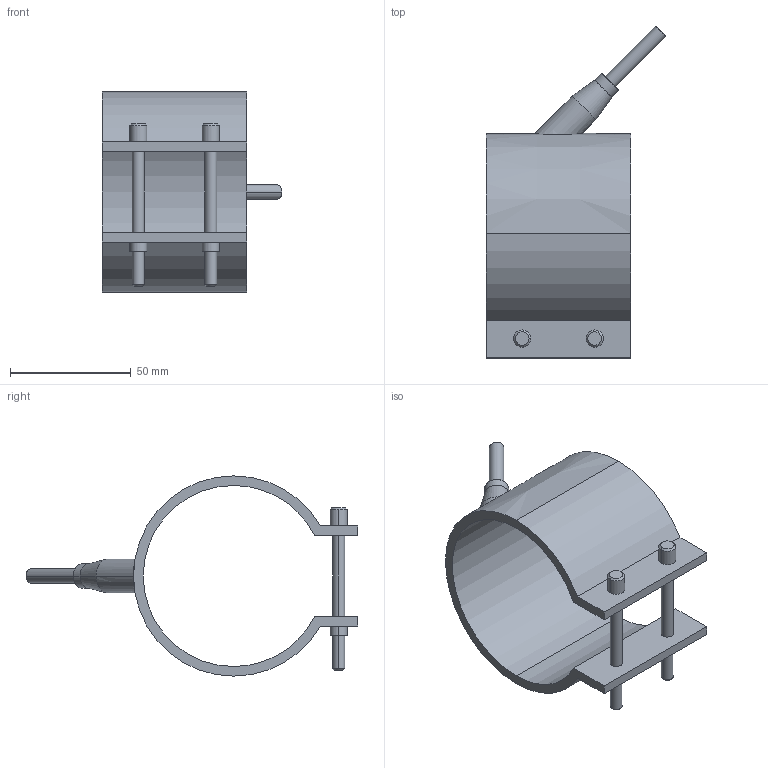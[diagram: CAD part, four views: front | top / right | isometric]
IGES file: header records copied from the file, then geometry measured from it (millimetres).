
Start section: START RECORD GO HERE.
Global section: file name: 29075060.igs; native system: DASSAULT SYSTEMES CATIA V5 R20 - www.3ds.com; preprocessor: CATIA Version 5 Release 20 ; author: Utente; organization: NB04-ASUS; date: 20210329.201314; units: millimetre
Bounding box: 74.55 x 137.55 x 83 mm (x, y, z)
Surface area: 35095.9 mm2 (no closed solid volume)
Topology: 0 solids, 0 shells, 54 faces, 250 edges, 250 vertices
Faces by surface type: revolution 38, plane 16
